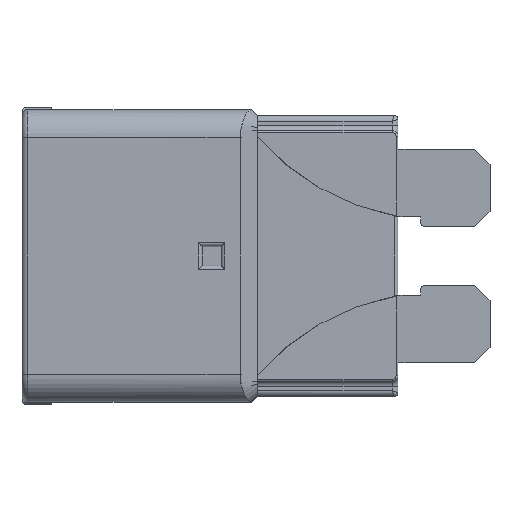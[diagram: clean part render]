
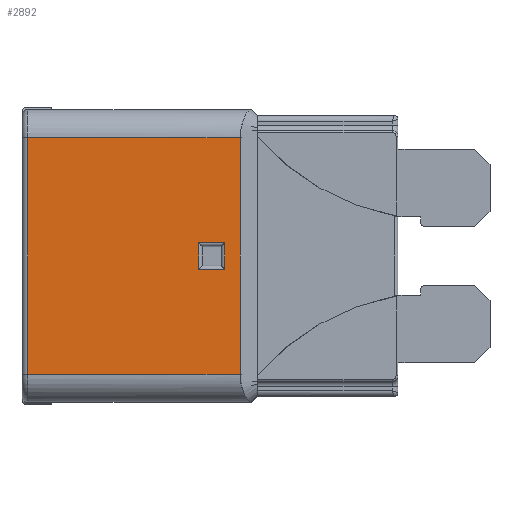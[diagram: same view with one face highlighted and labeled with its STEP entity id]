
A CAD part, left-side view. The second image highlights one B-rep face of the part: STEP entity #2892.
In plain terms, the highlighted planar face has unit normal (-1, 0, 0).
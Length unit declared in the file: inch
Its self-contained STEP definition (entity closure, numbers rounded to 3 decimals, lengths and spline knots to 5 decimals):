
#39=FACE_BOUND('',#449,.T.);
#114=PLANE('',#3220);
#274=FACE_OUTER_BOUND('',#448,.T.);
#448=EDGE_LOOP('',(#2349,#2350,#2351,#2352));
#449=EDGE_LOOP('',(#2353,#2354,#2355,#2356));
#755=LINE('',#5019,#1001);
#758=LINE('',#5032,#1004);
#759=LINE('',#5035,#1005);
#761=LINE('',#5038,#1007);
#768=LINE('',#5053,#1014);
#769=LINE('',#5055,#1015);
#770=LINE('',#5057,#1016);
#771=LINE('',#5058,#1017);
#1001=VECTOR('',#3814,0.3937);
#1004=VECTOR('',#3825,0.3937);
#1005=VECTOR('',#3830,0.3937);
#1007=VECTOR('',#3834,0.3937);
#1014=VECTOR('',#3847,0.3937);
#1015=VECTOR('',#3848,0.3937);
#1016=VECTOR('',#3849,0.3937);
#1017=VECTOR('',#3850,0.3937);
#1331=VERTEX_POINT('',#5017);
#1332=VERTEX_POINT('',#5018);
#1337=VERTEX_POINT('',#5029);
#1338=VERTEX_POINT('',#5031);
#1342=VERTEX_POINT('',#5051);
#1343=VERTEX_POINT('',#5052);
#1344=VERTEX_POINT('',#5054);
#1345=VERTEX_POINT('',#5056);
#1687=EDGE_CURVE('',#1331,#1332,#755,.T.);
#1693=EDGE_CURVE('',#1337,#1338,#758,.T.);
#1695=EDGE_CURVE('',#1332,#1337,#759,.T.);
#1697=EDGE_CURVE('',#1338,#1331,#761,.T.);
#1704=EDGE_CURVE('',#1342,#1343,#768,.T.);
#1705=EDGE_CURVE('',#1344,#1342,#769,.T.);
#1706=EDGE_CURVE('',#1345,#1344,#770,.T.);
#1707=EDGE_CURVE('',#1343,#1345,#771,.T.);
#2349=ORIENTED_EDGE('',*,*,#1704,.F.);
#2350=ORIENTED_EDGE('',*,*,#1705,.F.);
#2351=ORIENTED_EDGE('',*,*,#1706,.F.);
#2352=ORIENTED_EDGE('',*,*,#1707,.F.);
#2353=ORIENTED_EDGE('',*,*,#1693,.F.);
#2354=ORIENTED_EDGE('',*,*,#1695,.F.);
#2355=ORIENTED_EDGE('',*,*,#1687,.F.);
#2356=ORIENTED_EDGE('',*,*,#1697,.F.);
#2892=ADVANCED_FACE('',(#274,#39),#114,.T.);
#3220=AXIS2_PLACEMENT_3D('',#5050,#3845,#3846);
#3814=DIRECTION('',(0.,1.,0.));
#3825=DIRECTION('',(0.,-1.,0.));
#3830=DIRECTION('',(0.,0.,-1.));
#3834=DIRECTION('',(0.,0.,1.));
#3845=DIRECTION('center_axis',(-1.,0.,0.));
#3846=DIRECTION('ref_axis',(0.,0.,1.));
#3847=DIRECTION('',(0.,0.,-1.));
#3848=DIRECTION('',(0.,-1.,0.));
#3849=DIRECTION('',(0.,0.,1.));
#3850=DIRECTION('',(0.,1.,0.));
#5017=CARTESIAN_POINT('',(-0.122,0.045,0.035));
#5018=CARTESIAN_POINT('',(-0.122,0.115,0.035));
#5019=CARTESIAN_POINT('',(-0.122,0.0275,0.035));
#5029=CARTESIAN_POINT('',(-0.122,0.115,-0.035));
#5031=CARTESIAN_POINT('',(-0.122,0.045,-0.035));
#5032=CARTESIAN_POINT('',(-0.122,0.0525,-0.035));
#5035=CARTESIAN_POINT('',(-0.122,0.115,-0.1815));
#5038=CARTESIAN_POINT('',(-0.122,0.045,-0.2065));
#5050=CARTESIAN_POINT('Origin',(-0.122,0.,-0.388));
#5051=CARTESIAN_POINT('',(-0.122,0.005,0.313));
#5052=CARTESIAN_POINT('',(-0.122,0.005,-0.313));
#5053=CARTESIAN_POINT('',(-0.122,0.005,-0.194));
#5054=CARTESIAN_POINT('',(-0.122,0.568,0.313));
#5055=CARTESIAN_POINT('',(-0.122,0.,0.313));
#5056=CARTESIAN_POINT('',(-0.122,0.568,-0.313));
#5057=CARTESIAN_POINT('',(-0.122,0.568,-0.194));
#5058=CARTESIAN_POINT('',(-0.122,0.,-0.313));
